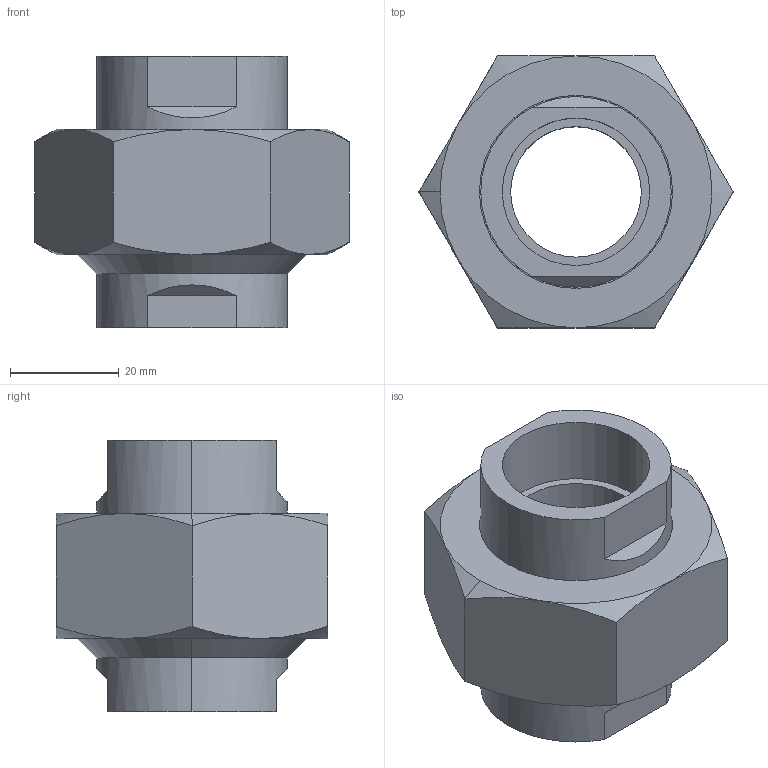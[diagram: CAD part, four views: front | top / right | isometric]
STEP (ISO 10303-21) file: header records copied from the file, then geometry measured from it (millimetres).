
FILE_DESCRIPTION (( 'STEP AP203' ), '1' );
FILE_NAME ('12-0131-07_outokumpu.step', '2015-08-12T08:08:19', ( '' ), ( '' ), 'SwSTEP 2.0', 'SolidWorks 2008', '' );
FILE_SCHEMA (( 'CONFIG_CONTROL_DESIGN' ));
Length unit declared in the file: millimetre
Products named in the file (4): case-13-555-368_outokumpu_case-13-555-368_outokumpu; nipple-13-444-188_outokumpu_nipple-13-444-188_outokumpu; 12-0131-07_outokumpu; nut-13-222-041_outokumpu_nut-13-222-041_outokumpu
Assembly tree (3 placements, depth 2):
  12-0131-07_outokumpu
    nut-13-222-041_outokumpu_nut-13-222-041_outokumpu
    case-13-555-368_outokumpu_case-13-555-368_outokumpu
    nipple-13-444-188_outokumpu_nipple-13-444-188_outokumpu
Bounding box: 57.73 x 50 x 50 mm (x, y, z)
Volume: 45328.5 mm3; surface area: 23050.6 mm2
Topology: 3 solids, 3 shells, 68 faces, 148 edges, 92 vertices
Faces by surface type: plane 26, cone 22, cylinder 20
Entity records: 2406 total; most frequent: CARTESIAN_POINT 494, DIRECTION 336, ORIENTED_EDGE 296, EDGE_CURVE 148, AXIS2_PLACEMENT_3D 142, VERTEX_POINT 92, EDGE_LOOP 80, ADVANCED_FACE 68
